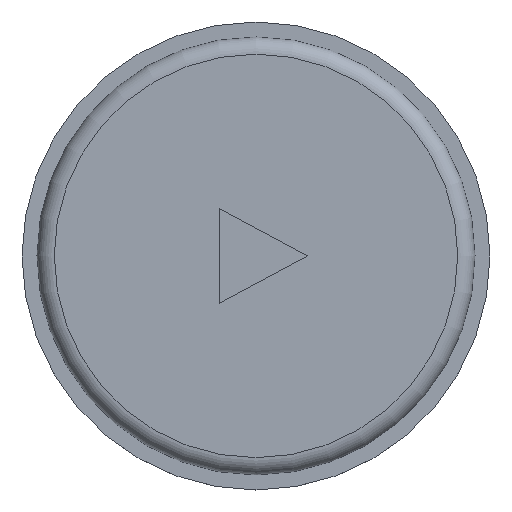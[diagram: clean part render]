
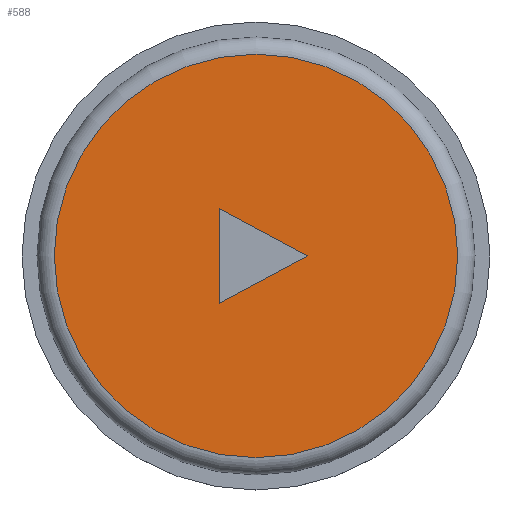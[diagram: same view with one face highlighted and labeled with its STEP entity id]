
A CAD part, top view. The second image highlights one B-rep face of the part: STEP entity #588.
In plain terms, the highlighted planar face has unit normal (0, 0, 1).
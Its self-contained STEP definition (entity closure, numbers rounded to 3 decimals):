
#238 = EDGE_CURVE('',#239,#241,#243,.T.);
#239 = VERTEX_POINT('',#240);
#240 = CARTESIAN_POINT('',(4.5,-36.,14.4));
#241 = VERTEX_POINT('',#242);
#242 = CARTESIAN_POINT('',(-3.2,-40.1,14.4));
#243 = SURFACE_CURVE('',#244,(#248,#260),.PCURVE_S1.);
#244 = LINE('',#245,#246);
#245 = CARTESIAN_POINT('',(2.747,-36.933,14.4));
#246 = VECTOR('',#247,1.);
#247 = DIRECTION('',(-0.883,-0.47,0.));
#248 = PCURVE('',#249,#254);
#249 = PLANE('',#250);
#250 = AXIS2_PLACEMENT_3D('',#251,#252,#253);
#251 = CARTESIAN_POINT('',(4.5,-36.,14.5));
#252 = DIRECTION('',(0.47,-0.883,0.));
#253 = DIRECTION('',(-0.883,-0.47,0.));
#254 = DEFINITIONAL_REPRESENTATION('',(#255),#259);
#255 = LINE('',#256,#257);
#256 = CARTESIAN_POINT('',(1.986,0.1));
#257 = VECTOR('',#258,1.);
#258 = DIRECTION('',(1.,0.));
#259 = ( GEOMETRIC_REPRESENTATION_CONTEXT(2) 
PARAMETRIC_REPRESENTATION_CONTEXT() REPRESENTATION_CONTEXT('2D SPACE',''
  ) );
#260 = PCURVE('',#261,#266);
#261 = PLANE('',#262);
#262 = AXIS2_PLACEMENT_3D('',#263,#264,#265);
#263 = CARTESIAN_POINT('',(0.,-36.,14.4));
#264 = DIRECTION('',(0.,0.,1.));
#265 = DIRECTION('',(1.,0.,-0.));
#266 = DEFINITIONAL_REPRESENTATION('',(#267),#271);
#267 = LINE('',#268,#269);
#268 = CARTESIAN_POINT('',(2.747,-0.933));
#269 = VECTOR('',#270,1.);
#270 = DIRECTION('',(-0.883,-0.47));
#271 = ( GEOMETRIC_REPRESENTATION_CONTEXT(2) 
PARAMETRIC_REPRESENTATION_CONTEXT() REPRESENTATION_CONTEXT('2D SPACE',''
  ) );
#289 = PLANE('',#290);
#290 = AXIS2_PLACEMENT_3D('',#291,#292,#293);
#291 = CARTESIAN_POINT('',(-3.2,-31.9,14.5));
#292 = DIRECTION('',(0.47,0.883,0.));
#293 = DIRECTION('',(0.883,-0.47,0.));
#343 = PLANE('',#344);
#344 = AXIS2_PLACEMENT_3D('',#345,#346,#347);
#345 = CARTESIAN_POINT('',(-3.2,-40.1,14.5));
#346 = DIRECTION('',(-1.,0.,0.));
#347 = DIRECTION('',(0.,1.,0.));
#358 = EDGE_CURVE('',#241,#359,#361,.T.);
#359 = VERTEX_POINT('',#360);
#360 = CARTESIAN_POINT('',(-3.2,-31.9,14.4));
#361 = SURFACE_CURVE('',#362,(#366,#373),.PCURVE_S1.);
#362 = LINE('',#363,#364);
#363 = CARTESIAN_POINT('',(-3.2,-38.05,14.4));
#364 = VECTOR('',#365,1.);
#365 = DIRECTION('',(0.,1.,0.));
#366 = PCURVE('',#343,#367);
#367 = DEFINITIONAL_REPRESENTATION('',(#368),#372);
#368 = LINE('',#369,#370);
#369 = CARTESIAN_POINT('',(2.05,0.1));
#370 = VECTOR('',#371,1.);
#371 = DIRECTION('',(1.,0.));
#372 = ( GEOMETRIC_REPRESENTATION_CONTEXT(2) 
PARAMETRIC_REPRESENTATION_CONTEXT() REPRESENTATION_CONTEXT('2D SPACE',''
  ) );
#373 = PCURVE('',#261,#374);
#374 = DEFINITIONAL_REPRESENTATION('',(#375),#379);
#375 = LINE('',#376,#377);
#376 = CARTESIAN_POINT('',(-3.2,-2.05));
#377 = VECTOR('',#378,1.);
#378 = DIRECTION('',(0.,1.));
#379 = ( GEOMETRIC_REPRESENTATION_CONTEXT(2) 
PARAMETRIC_REPRESENTATION_CONTEXT() REPRESENTATION_CONTEXT('2D SPACE',''
  ) );
#429 = EDGE_CURVE('',#359,#239,#430,.T.);
#430 = SURFACE_CURVE('',#431,(#435,#442),.PCURVE_S1.);
#431 = LINE('',#432,#433);
#432 = CARTESIAN_POINT('',(-1.103,-33.017,14.4));
#433 = VECTOR('',#434,1.);
#434 = DIRECTION('',(0.883,-0.47,0.));
#435 = PCURVE('',#289,#436);
#436 = DEFINITIONAL_REPRESENTATION('',(#437),#441);
#437 = LINE('',#438,#439);
#438 = CARTESIAN_POINT('',(2.376,0.1));
#439 = VECTOR('',#440,1.);
#440 = DIRECTION('',(1.,0.));
#441 = ( GEOMETRIC_REPRESENTATION_CONTEXT(2) 
PARAMETRIC_REPRESENTATION_CONTEXT() REPRESENTATION_CONTEXT('2D SPACE',''
  ) );
#442 = PCURVE('',#261,#443);
#443 = DEFINITIONAL_REPRESENTATION('',(#444),#448);
#444 = LINE('',#445,#446);
#445 = CARTESIAN_POINT('',(-1.103,2.983));
#446 = VECTOR('',#447,1.);
#447 = DIRECTION('',(0.883,-0.47));
#448 = ( GEOMETRIC_REPRESENTATION_CONTEXT(2) 
PARAMETRIC_REPRESENTATION_CONTEXT() REPRESENTATION_CONTEXT('2D SPACE',''
  ) );
#482 = EDGE_CURVE('',#483,#483,#485,.T.);
#483 = VERTEX_POINT('',#484);
#484 = CARTESIAN_POINT('',(-17.5,-36.,14.4));
#485 = SURFACE_CURVE('',#486,(#491,#503),.PCURVE_S1.);
#486 = CIRCLE('',#487,17.5);
#487 = AXIS2_PLACEMENT_3D('',#488,#489,#490);
#488 = CARTESIAN_POINT('',(0.,-36.,14.4));
#489 = DIRECTION('',(0.,0.,-1.));
#490 = DIRECTION('',(1.,0.,0.));
#491 = PCURVE('',#492,#497);
#492 = TOROIDAL_SURFACE('',#493,17.5,1.5);
#493 = AXIS2_PLACEMENT_3D('',#494,#495,#496);
#494 = CARTESIAN_POINT('',(0.,-36.,12.9));
#495 = DIRECTION('',(0.,0.,1.));
#496 = DIRECTION('',(1.,0.,-0.));
#497 = DEFINITIONAL_REPRESENTATION('',(#498),#502);
#498 = LINE('',#499,#500);
#499 = CARTESIAN_POINT('',(6.283,1.571));
#500 = VECTOR('',#501,1.);
#501 = DIRECTION('',(-1.,0.));
#502 = ( GEOMETRIC_REPRESENTATION_CONTEXT(2) 
PARAMETRIC_REPRESENTATION_CONTEXT() REPRESENTATION_CONTEXT('2D SPACE',''
  ) );
#503 = PCURVE('',#261,#504);
#504 = DEFINITIONAL_REPRESENTATION('',(#505),#513);
#505 = ( BOUNDED_CURVE() B_SPLINE_CURVE(2,(#506,#507,#508,#509,#510,#511
,#512),.UNSPECIFIED.,.T.,.F.) B_SPLINE_CURVE_WITH_KNOTS((1,2,2,2,2,1),(
    -2.094,0.,2.094,4.189,6.283,
8.378),.UNSPECIFIED.) CURVE() GEOMETRIC_REPRESENTATION_ITEM() 
RATIONAL_B_SPLINE_CURVE((1.,0.5,1.,0.5,1.,0.5,1.)) REPRESENTATION_ITEM(
  '') );
#506 = CARTESIAN_POINT('',(17.5,0.));
#507 = CARTESIAN_POINT('',(17.5,-30.311));
#508 = CARTESIAN_POINT('',(-8.75,-15.155));
#509 = CARTESIAN_POINT('',(-35.,0.));
#510 = CARTESIAN_POINT('',(-8.75,15.155));
#511 = CARTESIAN_POINT('',(17.5,30.311));
#512 = CARTESIAN_POINT('',(17.5,0.));
#513 = ( GEOMETRIC_REPRESENTATION_CONTEXT(2) 
PARAMETRIC_REPRESENTATION_CONTEXT() REPRESENTATION_CONTEXT('2D SPACE',''
  ) );
#588 = ADVANCED_FACE('',(#589,#592),#261,.T.);
#589 = FACE_BOUND('',#590,.T.);
#590 = EDGE_LOOP('',(#591));
#591 = ORIENTED_EDGE('',*,*,#482,.F.);
#592 = FACE_BOUND('',#593,.T.);
#593 = EDGE_LOOP('',(#594,#595,#596));
#594 = ORIENTED_EDGE('',*,*,#358,.T.);
#595 = ORIENTED_EDGE('',*,*,#429,.T.);
#596 = ORIENTED_EDGE('',*,*,#238,.T.);
